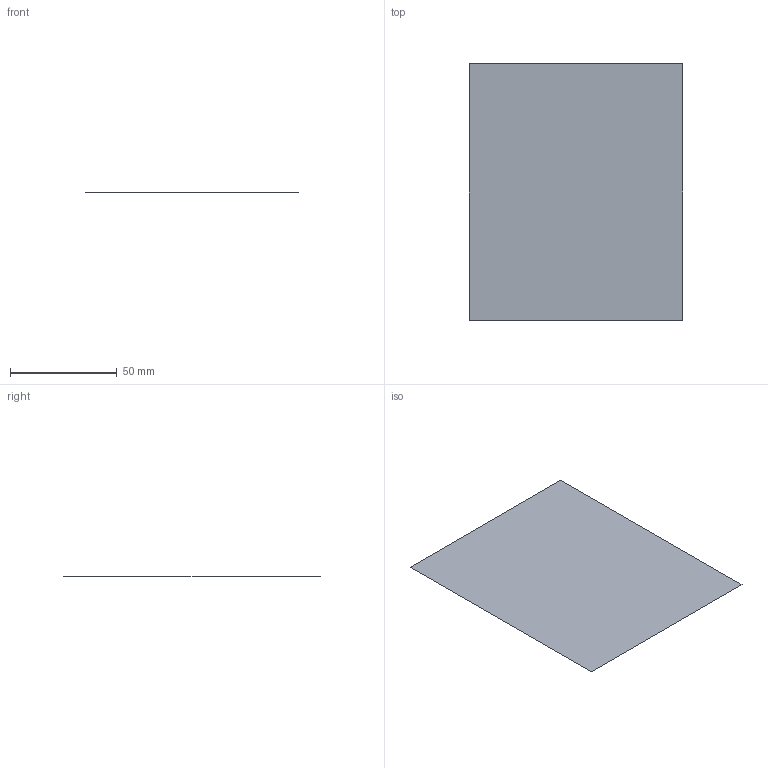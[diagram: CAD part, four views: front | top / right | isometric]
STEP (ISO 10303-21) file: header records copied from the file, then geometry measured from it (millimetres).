
FILE_DESCRIPTION(('CATIA V5 STEP Exchange'),'2;1');
FILE_NAME('C:\_Andres\UNIVERSIDAD\IQS\ASIGNATURAS\DAO\EXF\EXF-15161c\1original\Giménez_Álvarez-Sarandés_Ej06-calculo_v10.stp','2016-03-04T20:57:42+00:00',('none'),('none'),'CATIA Version 5 Release 20 SP 1 (IN-10)','CATIA V5 STEP AP203','none');
FILE_SCHEMA(('CONFIG_CONTROL_DESIGN'));
Length unit declared in the file: millimetre
Products named in the file (1): Giménez_Álvarez-Sarandés_Ej06-calculo_v10
Bounding box: 100 x 120 x 0 mm (x, y, z)
Surface area: 12000 mm2 (no closed solid volume)
Topology: 0 solids, 1 shells, 1 faces, 8 edges, 9 vertices
Faces by surface type: plane 1
Entity records: 130 total; most frequent: CARTESIAN_POINT 23, DIRECTION 12, VECTOR 8, LINE 8, COMPOSITE_CURVE_SEGMENT 4, ORIENTED_EDGE 4, CC_DESIGN_PERSON_AND_ORGANIZATION_ASSIGNMENT 4, PERSON_AND_ORGANIZATION_ROLE 4
